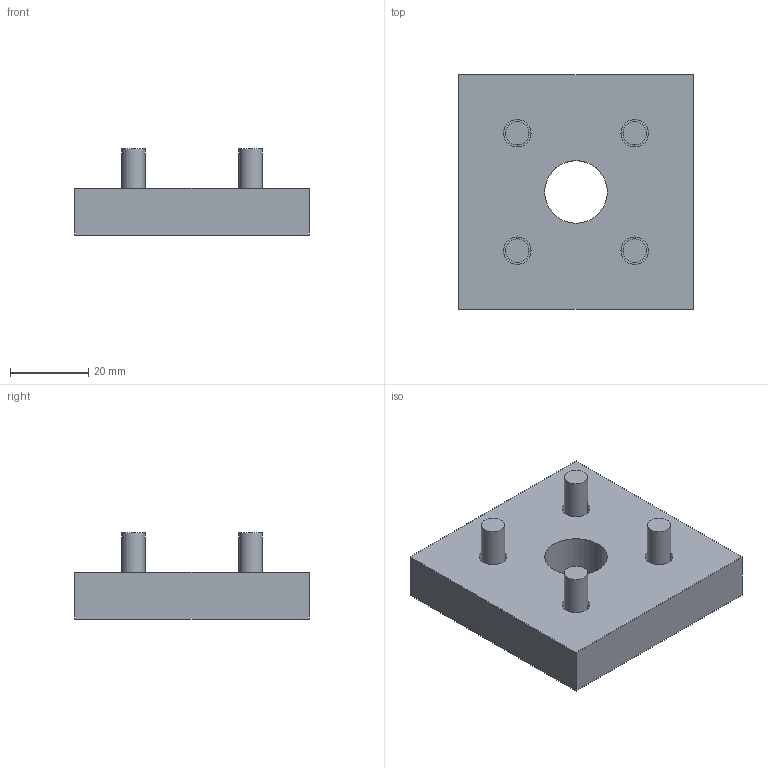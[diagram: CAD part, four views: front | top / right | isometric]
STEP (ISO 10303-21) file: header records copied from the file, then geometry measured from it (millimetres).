
FILE_DESCRIPTION((''),'2;1');
FILE_NAME('C:\Documents and Settings\古川典政\My Documents\Inventor\HP用\MasterData\ACCESSORY\M6\LFB-6060-6.stp','2008-08-05T14:46:05',(''),(''),'Autodesk Inventor 2008','Autodesk Inventor 2008','');
FILE_SCHEMA(('CONFIG_CONTROL_DESIGN'));
Length unit declared in the file: millimetre
Products named in the file (6): LFB-6060-6; LFB-6060-61; LFB-6060-62; LFB-6060-63; LFB-6060-64; LFB-6060-65
Assembly tree (5 placements, depth 2):
  LFB-6060-6
    LFB-6060-61
    LFB-6060-62
    LFB-6060-63
    LFB-6060-64
    LFB-6060-65
Bounding box: 60 x 60 x 22 mm (x, y, z)
Volume: 40939.8 mm3; surface area: 13893.4 mm2
Topology: 5 solids, 5 shells, 39 faces, 64 edges, 43 vertices
Faces by surface type: plane 18, bspline 13, cylinder 8
Full cylindrical faces by diameter (mm): 6 x4, 10 x4
Entity records: 1122 total; most frequent: CARTESIAN_POINT 303, DIRECTION 154, ORIENTED_EDGE 92, EDGE_LOOP 74, AXIS2_PLACEMENT_3D 71, EDGE_CURVE 46, VERTEX_POINT 42, FACE_OUTER_BOUND 39
